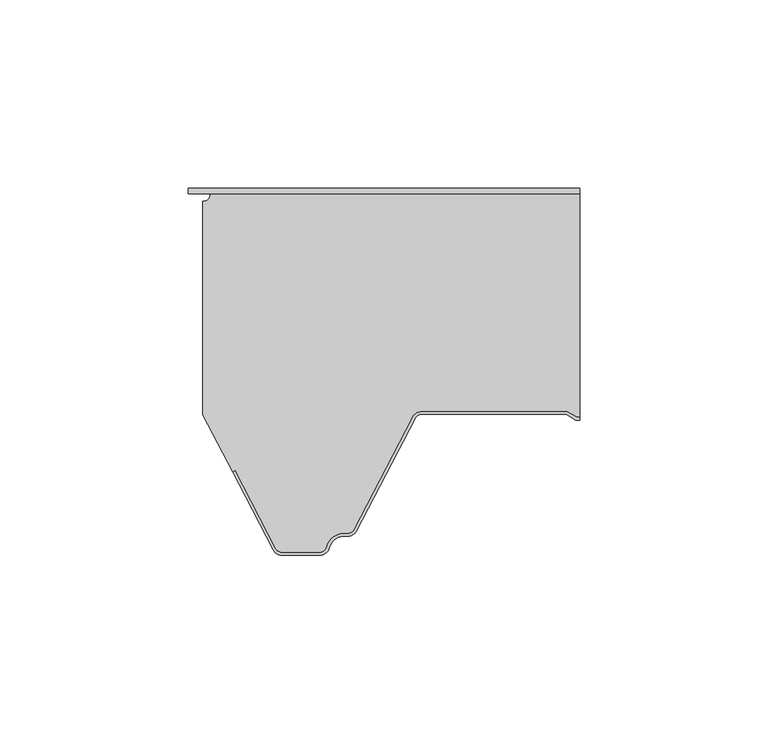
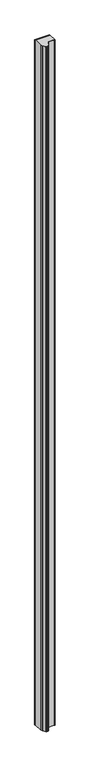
"""IFC4 building model written with IfcOpenShell, lengths in millimetres: plate geometry, Paneles-Sándwich-Madera_PALDR-AC_Curtain-Panel : PALDR AC 60/15."""

from ifc_helpers import new_model, si_unit, frame, origin, origin_with_axes, place, context, project, spatial, polyline, circle_curve, outline, extrude, source, transform, mapped, element, save
from ifc_brep_helpers import plane_surface, cylinder_surface, revolved_surface, advanced_brep


def plate_2aa0ecfb(model_context):
    return source(origin(), model_context, "Body", "SolidModel", [
        extrude(outline(polyline([(-53.88, -1.5), (-53.88, 0.0), (50.0, 0.0), (50.0, -1.5), (-53.88, -1.5)])), origin_with_axes(), (0.0, 0.0, 1.0), 5000.0),
        advanced_brep(
        [(-30.6207387, -95.6314818, 0.0), (-41.4414179, -74.855778, 0.0), (-42.1509492, -75.2253256, 0.0), (-50.0, -60.1551481, 0.0), (-50.0, -3.45, 0.0), (-48.05, -1.5, 0.0), (50.0, -1.5, 0.0), (50.0, -60.7, 0.0), (49.2107961, -60.7, 0.0), (46.6127185, -59.2, 0.0), (8.090871, -59.2, 0.0), (5.6075115, -60.7065836, 0.0), (-9.9783733, -90.6314825, 0.0), (-11.574819, -91.6, 0.0), (-12.6272901, -91.6, 0.0), (-17.2841077, -95.2363636, 0.0), (-19.030414, -96.5999997, 0.0), (-29.024293, -96.5999997, 0.0), (-30.6207383, -95.6314813, 5000.0), (-29.024293, -96.5999997, 5000.0), (-19.030414, -96.5999997, 5000.0), (-17.2841077, -95.2363636, 5000.0), (-12.6272901, -91.6, 5000.0), (-11.574819, -91.6, 5000.0), (-9.9783737, -90.631482, 5000.0), (5.6075107, -60.7065835, 5000.0), (8.090871, -59.2, 5000.0), (46.6127185, -59.2, 5000.0), (49.2107961, -60.7, 5000.0), (50.0, -60.7, 5000.0), (50.0, -1.5, 5000.0), (-48.05, -1.5, 5000.0), (-50.0, -3.45, 5000.0), (-50.0, -60.1551481, 5000.0), (-42.1509492, -75.2253256, 5000.0), (-41.4414179, -74.855778, 5000.0)],
        [
            (0, 1),
            (1, 2),
            (2, 3),
            (3, 4),
            (4, 5, circle_curve(frame((-50.0, -1.5, 0.0), z_axis=(0.0, 0.0, 1.0), x_axis=(-1.0, 0.0, 0.0)), 1.95)),
            (5, 6),
            (6, 7),
            (7, 8),
            (8, 9),
            (9, 10),
            (10, 11, circle_curve(frame((8.090871, -62.0, 0.0), z_axis=(0.0, 0.0, 1.0), x_axis=(-1.0, 0.0, 0.0)), 2.8)),
            (11, 12),
            (12, 13, circle_curve(frame((-11.574819, -89.8, 0.0), z_axis=(0.0, 0.0, -1.0), x_axis=(-1.0, 0.0, 0.0)), 1.8)),
            (13, 14),
            (14, 15, circle_curve(frame((-12.6272901, -96.4, 0.0), z_axis=(0.0, 0.0, 1.0), x_axis=(-1.0, 0.0, 0.0)), 4.8)),
            (15, 16, circle_curve(frame((-19.030414, -94.8, 0.0), z_axis=(0.0, 0.0, -1.0), x_axis=(-1.0, 0.0, 0.0)), 1.7999997)),
            (16, 17),
            (17, 0, circle_curve(frame((-29.024293, -94.8, 0.0), z_axis=(0.0, 0.0, -1.0), x_axis=(-1.0, 0.0, 0.0)), 1.7999997)),
            (18, 19, circle_curve(frame((-29.024293, -94.8, 5000.0), z_axis=(0.0, 0.0, 1.0), x_axis=(-1.0, 0.0, 0.0)), 1.7999997)),
            (19, 20),
            (20, 21, circle_curve(frame((-19.030414, -94.8, 5000.0), z_axis=(0.0, 0.0, 1.0), x_axis=(-1.0, 0.0, 0.0)), 1.7999997)),
            (21, 22, circle_curve(frame((-12.6272901, -96.4, 5000.0), z_axis=(0.0, 0.0, -1.0), x_axis=(-1.0, 0.0, 0.0)), 4.8)),
            (22, 23),
            (23, 24, circle_curve(frame((-11.574819, -89.8, 5000.0), z_axis=(0.0, 0.0, 1.0), x_axis=(-1.0, 0.0, 0.0)), 1.8)),
            (24, 25),
            (25, 26, circle_curve(frame((8.090871, -62.0, 5000.0), z_axis=(0.0, 0.0, -1.0), x_axis=(-1.0, 0.0, 0.0)), 2.8)),
            (26, 27),
            (27, 28),
            (28, 29),
            (29, 30),
            (30, 31),
            (31, 32, circle_curve(frame((-50.0, -1.5, 5000.0), z_axis=(0.0, 0.0, -1.0), x_axis=(-1.0, 0.0, 0.0)), 1.95)),
            (32, 33),
            (33, 34),
            (34, 35),
            (35, 18),
            (0, 18),
            (35, 1),
            (34, 2),
            (33, 3),
            (32, 4),
            (5, 31),
            (30, 6),
            (28, 8),
            (7, 29),
            (27, 9),
            (26, 10),
            (25, 11),
            (24, 12),
            (23, 13),
            (22, 14),
            (21, 15),
            (20, 16),
            (19, 17),
        ],
        [
            plane_surface(frame((-50.0, 0.0, 0.0), z_axis=(0.0, 0.0, -1.0), x_axis=(0.0, 1.0, 0.0))),
            plane_surface(frame((-50.0, 0.0, 5000.0), z_axis=(0.0, 0.0, 1.0), x_axis=(0.0, 1.0, 0.0))),
            plane_surface(frame((-30.6207387, -95.6314818, 0.0), z_axis=(-0.8869140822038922, -0.46193442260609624, 0.0), x_axis=(0.0, 0.0, 1.0))),
            plane_surface(frame((-41.4414179, -74.855778, 0.0), z_axis=(0.4619344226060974, -0.8869140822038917, 0.0), x_axis=(0.0, 0.0, 1.0))),
            plane_surface(frame((-42.1509492, -75.2253256, 0.0), z_axis=(-0.8869140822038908, -0.4619344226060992, 0.0), x_axis=(0.0, 0.0, 1.0))),
            plane_surface(frame((-50.0, -60.1551481, 0.0), z_axis=(-1.0, 0.0, 0.0), x_axis=(0.0, 0.0, 1.0))),
            plane_surface(frame((-48.05, -1.5, 0.0), z_axis=(0.0, 1.0, 0.0), x_axis=(0.0, 0.0, 1.0))),
            plane_surface(frame((81.5859248, -60.7, 0.0), z_axis=(0.0, -1.0, 0.0), x_axis=(0.0, 0.0, 1.0))),
            plane_surface(frame((49.2107961, -60.7, 0.0), z_axis=(-0.4999997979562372, -0.866025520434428, 0.0), x_axis=(0.0, 0.0, 1.0))),
            plane_surface(frame((46.6127185, -59.2, 0.0), z_axis=(0.0, -1.0, 0.0), x_axis=(0.0, 0.0, 1.0))),
            revolved_surface(polyline([(5.290871, -62.0, 5000.0), (5.290871, -62.0, 0.0)]), (8.090871, -62.0, 0.0), (0.0, 0.0, 1.0)),
            plane_surface(frame((5.6075107, -60.7065835, 0.0), z_axis=(0.8869140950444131, -0.4619343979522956, 0.0), x_axis=(0.0, 0.0, 1.0))),
            cylinder_surface(frame((-11.574819, -89.8, 0.0), z_axis=(0.0, 0.0, -1.0), x_axis=(-1.0, 0.0, 0.0)), 1.8),
            plane_surface(frame((-11.574819, -91.6, 0.0), z_axis=(0.0, -1.0, 0.0), x_axis=(0.0, 0.0, 1.0))),
            revolved_surface(polyline([(-17.4272901, -96.4, 5000.0), (-17.4272901, -96.4, 0.0)]), (-12.6272901, -96.4, 0.0), (0.0, 0.0, 1.0)),
            cylinder_surface(frame((-19.030414, -94.8, 0.0), z_axis=(0.0, 0.0, -1.0), x_axis=(-1.0, 0.0, 0.0)), 1.7999997),
            plane_surface(frame((-19.030414, -96.5999997, 0.0), z_axis=(0.0, -1.0, 0.0), x_axis=(0.0, 0.0, 1.0))),
            cylinder_surface(frame((-29.024293, -94.8, 0.0), z_axis=(0.0, 0.0, -1.0), x_axis=(-1.0, 0.0, 0.0)), 1.7999997),
            revolved_surface(polyline([(-51.95, -1.5, 5000.0), (-51.95, -1.5, 0.0)]), (-50.0, -1.5, 0.0), (0.0, 0.0, 1.0)),
            plane_surface(frame((50.0, 0.0, 5000.0), z_axis=(1.0, 0.0, 0.0), x_axis=(0.0, 0.0, -1.0))),
        ],
        [
            (0, [[1, 2, 3, 4, 5, 6, 7, 8, 9, 10, 11, 12, 13, 14, 15, 16, 17, 18]]),
            (1, [[19, 20, 21, 22, 23, 24, 25, 26, 27, 28, 29, 30, 31, 32, 33, 34, 35, 36]]),
            (2, [[-1, 37, -36, 38]]),
            (3, [[-2, -38, -35, 39]]),
            (4, [[-3, -39, -34, 40]]),
            (5, [[-4, -40, -33, 41]]),
            (6, [[42, -31, 43, -6]]),
            (7, [[44, -8, 45, -29]]),
            (8, [[-9, -44, -28, 46]]),
            (9, [[-10, -46, -27, 47]]),
            (10, [[-11, -47, -26, 48]]),
            (11, [[-12, -48, -25, 49]]),
            (12, [[-13, -49, -24, 50]]),
            (13, [[-14, -50, -23, 51]]),
            (14, [[-15, -51, -22, 52]]),
            (15, [[-16, -52, -21, 53]]),
            (16, [[-17, -53, -20, 54]]),
            (17, [[-18, -54, -19, -37]]),
            (18, [[-5, -41, -32, -42]]),
            (19, [[-7, -43, -30, -45]]),
        ],
    ),
        advanced_brep(
        [(49.2107962, -60.7, 5000.0), (46.6127186, -59.2, 5000.0), (8.090871, -59.2, 5000.0), (5.6075116, -60.7065836, 5000.0), (-9.9783733, -90.6314825, 5000.0), (-11.574819, -91.6, 5000.0), (-12.62729, -91.6, 5000.0), (-17.2841076, -95.2363636, 5000.0), (-19.030414, -96.6, 5000.0), (-29.024293, -96.6, 5000.0), (-30.6207383, -95.631482, 5000.0), (-41.4404688, -74.8576004, 5000.0), (-42.15, -75.227148, 5000.0), (-31.33027, -96.00103, 5000.0), (-29.024293, -97.4, 5000.0), (-19.030414, -97.4, 5000.0), (-16.5079711, -95.4303031, 5000.0), (-12.62729, -92.4, 5000.0), (-11.574819, -92.4, 5000.0), (-9.2688424, -91.0010295, 5000.0), (6.317042, -61.076131, 5000.0), (8.090871, -60.0, 5000.0), (46.3983593, -60.0, 5000.0), (48.9964369, -61.5, 5000.0), (50.0, -61.5, 5000.0), (50.0, -60.7, 5000.0), (48.9964369, -61.5, 0.0), (46.3983593, -60.0, 0.0), (8.090871, -60.0, 0.0), (6.3170428, -61.0761312, 0.0), (-9.268842, -91.00103, 0.0), (-11.574819, -92.4, 0.0), (-12.62729, -92.4, 0.0), (-16.5079713, -95.430303, 0.0), (-19.030414, -97.4, 0.0), (-29.024293, -97.4, 0.0), (-31.3302696, -96.0010295, 0.0), (-42.15, -75.227148, 0.0), (-41.4404688, -74.8576004, 0.0), (-30.6207387, -95.6314825, 0.0), (-29.024293, -96.6, 0.0), (-19.030414, -96.6, 0.0), (-17.2841074, -95.2363637, 0.0), (-12.62729, -91.6, 0.0), (-11.574819, -91.6, 0.0), (-9.9783737, -90.631482, 0.0), (5.6075107, -60.7065835, 0.0), (8.090871, -59.2, 0.0), (46.6127186, -59.2, 0.0), (49.2107962, -60.7, 0.0), (50.0, -60.7, 0.0), (50.0, -61.5, 0.0)],
        [
            (0, 1),
            (1, 2),
            (2, 3, circle_curve(frame((8.090871, -62.0, 5000.0), z_axis=(0.0, 0.0, 1.0), x_axis=(1.0, 0.0, 0.0)), 2.8)),
            (3, 4),
            (4, 5, circle_curve(frame((-11.574819, -89.8, 5000.0), z_axis=(0.0, 0.0, -1.0), x_axis=(1.0, 0.0, 0.0)), 1.8)),
            (5, 6),
            (6, 7, circle_curve(frame((-12.62729, -96.4, 5000.0), z_axis=(0.0, 0.0, 1.0), x_axis=(1.0, 0.0, 0.0)), 4.8)),
            (7, 8, circle_curve(frame((-19.030414, -94.8, 5000.0), z_axis=(0.0, 0.0, -1.0), x_axis=(1.0, 0.0, 0.0)), 1.8)),
            (8, 9),
            (9, 10, circle_curve(frame((-29.024293, -94.8, 5000.0), z_axis=(0.0, 0.0, -1.0), x_axis=(1.0, 0.0, 0.0)), 1.8)),
            (10, 11),
            (11, 12),
            (12, 13),
            (13, 14, circle_curve(frame((-29.024293, -94.8, 5000.0), z_axis=(0.0, 0.0, 1.0), x_axis=(1.0, 0.0, 0.0)), 2.6)),
            (14, 15),
            (15, 16, circle_curve(frame((-19.030414, -94.8, 5000.0), z_axis=(0.0, 0.0, 1.0), x_axis=(1.0, 0.0, 0.0)), 2.6)),
            (16, 17, circle_curve(frame((-12.62729, -96.4, 5000.0), z_axis=(0.0, 0.0, -1.0), x_axis=(1.0, 0.0, 0.0)), 4.0)),
            (17, 18),
            (18, 19, circle_curve(frame((-11.574819, -89.8, 5000.0), z_axis=(0.0, 0.0, 1.0), x_axis=(1.0, 0.0, 0.0)), 2.6)),
            (19, 20),
            (20, 21, circle_curve(frame((8.090871, -62.0, 5000.0), z_axis=(0.0, 0.0, -1.0), x_axis=(1.0, 0.0, 0.0)), 2.0)),
            (21, 22),
            (22, 23),
            (23, 24),
            (24, 25),
            (25, 0),
            (26, 27),
            (27, 28),
            (28, 29, circle_curve(frame((8.090871, -62.0, 0.0), z_axis=(0.0, 0.0, 1.0), x_axis=(1.0, 0.0, 0.0)), 2.0)),
            (29, 30),
            (30, 31, circle_curve(frame((-11.574819, -89.8, 0.0), z_axis=(0.0, 0.0, -1.0), x_axis=(1.0, 0.0, 0.0)), 2.6)),
            (31, 32),
            (32, 33, circle_curve(frame((-12.62729, -96.4, 0.0), z_axis=(0.0, 0.0, 1.0), x_axis=(1.0, 0.0, 0.0)), 4.0)),
            (33, 34, circle_curve(frame((-19.030414, -94.8, 0.0), z_axis=(0.0, 0.0, -1.0), x_axis=(1.0, 0.0, 0.0)), 2.6)),
            (34, 35),
            (35, 36, circle_curve(frame((-29.024293, -94.8, 0.0), z_axis=(0.0, 0.0, -1.0), x_axis=(1.0, 0.0, 0.0)), 2.6)),
            (36, 37),
            (37, 38),
            (38, 39),
            (39, 40, circle_curve(frame((-29.024293, -94.8, 0.0), z_axis=(0.0, 0.0, 1.0), x_axis=(1.0, 0.0, 0.0)), 1.8)),
            (40, 41),
            (41, 42, circle_curve(frame((-19.030414, -94.8, 0.0), z_axis=(0.0, 0.0, 1.0), x_axis=(1.0, 0.0, 0.0)), 1.8)),
            (42, 43, circle_curve(frame((-12.62729, -96.4, 0.0), z_axis=(0.0, 0.0, -1.0), x_axis=(1.0, 0.0, 0.0)), 4.8)),
            (43, 44),
            (44, 45, circle_curve(frame((-11.574819, -89.8, 0.0), z_axis=(0.0, 0.0, 1.0), x_axis=(1.0, 0.0, 0.0)), 1.8)),
            (45, 46),
            (46, 47, circle_curve(frame((8.090871, -62.0, 0.0), z_axis=(0.0, 0.0, -1.0), x_axis=(1.0, 0.0, 0.0)), 2.8)),
            (47, 48),
            (48, 49),
            (49, 50),
            (50, 51),
            (51, 26),
            (49, 0),
            (25, 50),
            (48, 1),
            (47, 2),
            (46, 3),
            (45, 4),
            (44, 5),
            (43, 6),
            (42, 7),
            (41, 8),
            (40, 9),
            (39, 10),
            (38, 11),
            (37, 12),
            (36, 13),
            (35, 14),
            (34, 15),
            (33, 16),
            (32, 17),
            (31, 18),
            (30, 19),
            (29, 20),
            (28, 21),
            (27, 22),
            (26, 23),
            (51, 24),
        ],
        [
            plane_surface(frame((-50.0, -60.0, 5000.0), z_axis=(0.0, 0.0, 1.0), x_axis=(0.0, 1.0, 0.0))),
            plane_surface(frame((-50.0, -60.0, 0.0), z_axis=(0.0, 0.0, -1.0), x_axis=(0.0, 1.0, 0.0))),
            plane_surface(frame((81.5859248, -60.7, 5000.0), z_axis=(0.0, 1.0, 0.0), x_axis=(0.0, 0.0, -1.0))),
            plane_surface(frame((49.2107962, -60.7, 5000.0), z_axis=(0.4999997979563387, 0.8660255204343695, 0.0), x_axis=(0.0, 0.0, -1.0))),
            plane_surface(frame((46.6127186, -59.2, 5000.0), z_axis=(0.0, 1.0, 0.0), x_axis=(0.0, 0.0, -1.0))),
            cylinder_surface(frame((8.090871, -62.0, 5000.0), z_axis=(0.0, 0.0, 1.0), x_axis=(1.0, 0.0, 0.0)), 2.8),
            plane_surface(frame((5.6075107, -60.7065835, 5000.0), z_axis=(-0.8869140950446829, 0.4619343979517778, 0.0), x_axis=(0.0, 0.0, -1.0))),
            revolved_surface(polyline([(-9.774818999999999, -89.8, 0.0), (-9.774818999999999, -89.8, 5000.0)]), (-11.574819, -89.8, 5000.0), (0.0, 0.0, -1.0)),
            plane_surface(frame((-11.574819, -91.6, 5000.0), z_axis=(0.0, 1.0, 0.0), x_axis=(0.0, 0.0, -1.0))),
            cylinder_surface(frame((-12.62729, -96.4, 5000.0), z_axis=(0.0, 0.0, 1.0), x_axis=(1.0, 0.0, 0.0)), 4.8),
            revolved_surface(polyline([(-17.230414, -94.8, 0.0), (-17.230414, -94.8, 5000.0)]), (-19.030414, -94.8, 5000.0), (0.0, 0.0, -1.0)),
            plane_surface(frame((-19.030414, -96.6, 5000.0), z_axis=(0.0, 1.0, 0.0), x_axis=(0.0, 0.0, -1.0))),
            revolved_surface(polyline([(-27.224293, -94.8, 0.0), (-27.224293, -94.8, 5000.0)]), (-29.024293, -94.8, 5000.0), (0.0, 0.0, -1.0)),
            plane_surface(frame((-30.6207387, -95.6314825, 5000.0), z_axis=(0.8869140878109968, 0.46193441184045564, 0.0), x_axis=(0.0, 0.0, -1.0))),
            plane_surface(frame((-41.4404688, -74.8576004, 5000.0), z_axis=(-0.46193450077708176, 0.8869140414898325, 0.0), x_axis=(0.0, 0.0, -1.0))),
            plane_surface(frame((-42.15, -75.227148, 5000.0), z_axis=(-0.8869140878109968, -0.46193441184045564, 0.0), x_axis=(0.0, 0.0, -1.0))),
            cylinder_surface(frame((-29.024293, -94.8, 5000.0), z_axis=(0.0, 0.0, 1.0), x_axis=(1.0, 0.0, 0.0)), 2.6),
            plane_surface(frame((-29.024293, -97.4, 5000.0), z_axis=(0.0, -1.0, 0.0), x_axis=(0.0, 0.0, -1.0))),
            cylinder_surface(frame((-19.030414, -94.8, 5000.0), z_axis=(0.0, 0.0, 1.0), x_axis=(1.0, 0.0, 0.0)), 2.6),
            revolved_surface(polyline([(-8.62729, -96.4, 0.0), (-8.62729, -96.4, 5000.0)]), (-12.62729, -96.4, 5000.0), (0.0, 0.0, -1.0)),
            plane_surface(frame((-12.62729, -92.4, 5000.0), z_axis=(0.0, -1.0, 0.0), x_axis=(0.0, 0.0, -1.0))),
            cylinder_surface(frame((-11.574819, -89.8, 5000.0), z_axis=(0.0, 0.0, 1.0), x_axis=(1.0, 0.0, 0.0)), 2.6),
            plane_surface(frame((-9.268842, -91.00103, 5000.0), z_axis=(0.8869140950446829, -0.4619343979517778, 0.0), x_axis=(0.0, 0.0, -1.0))),
            revolved_surface(polyline([(10.090871, -62.0, 0.0), (10.090871, -62.0, 5000.0)]), (8.090871, -62.0, 5000.0), (0.0, 0.0, -1.0)),
            plane_surface(frame((8.090871, -60.0, 5000.0), z_axis=(0.0, -1.0, 0.0), x_axis=(0.0, 0.0, -1.0))),
            plane_surface(frame((46.3983593, -60.0, 5000.0), z_axis=(-0.4999997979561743, -0.8660255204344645, 0.0), x_axis=(0.0, 0.0, -1.0))),
            plane_surface(frame((48.9964369, -61.5, 5000.0), z_axis=(0.0, -1.0, 0.0), x_axis=(0.0, 0.0, -1.0))),
            plane_surface(frame((50.0, 0.0, 5000.0), z_axis=(1.0, 0.0, 0.0), x_axis=(0.0, 0.0, -1.0))),
        ],
        [
            (0, [[1, 2, 3, 4, 5, 6, 7, 8, 9, 10, 11, 12, 13, 14, 15, 16, 17, 18, 19, 20, 21, 22, 23, 24, 25, 26]]),
            (1, [[27, 28, 29, 30, 31, 32, 33, 34, 35, 36, 37, 38, 39, 40, 41, 42, 43, 44, 45, 46, 47, 48, 49, 50, 51, 52]]),
            (2, [[53, -26, 54, -50]]),
            (3, [[-1, -53, -49, 55]]),
            (4, [[-2, -55, -48, 56]]),
            (5, [[-3, -56, -47, 57]]),
            (6, [[-4, -57, -46, 58]]),
            (7, [[-5, -58, -45, 59]]),
            (8, [[-6, -59, -44, 60]]),
            (9, [[-7, -60, -43, 61]]),
            (10, [[-8, -61, -42, 62]]),
            (11, [[-9, -62, -41, 63]]),
            (12, [[-10, -63, -40, 64]]),
            (13, [[-11, -64, -39, 65]]),
            (14, [[-12, -65, -38, 66]]),
            (15, [[-13, -66, -37, 67]]),
            (16, [[-14, -67, -36, 68]]),
            (17, [[-15, -68, -35, 69]]),
            (18, [[-16, -69, -34, 70]]),
            (19, [[-17, -70, -33, 71]]),
            (20, [[-18, -71, -32, 72]]),
            (21, [[-19, -72, -31, 73]]),
            (22, [[-20, -73, -30, 74]]),
            (23, [[-21, -74, -29, 75]]),
            (24, [[-22, -75, -28, 76]]),
            (25, [[-23, -76, -27, 77]]),
            (26, [[-77, -52, 78, -24]]),
            (27, [[-25, -78, -51, -54]]),
        ],
    ),
    ])


if __name__ == "__main__":
    model = new_model("IFC4")
    model_context = context("Model", 3, world=origin())
    ifc_project = project(units=[si_unit("LENGTHUNIT", "METRE", prefix="MILLI")], contexts=[model_context])
    site = spatial("IfcSite", under=ifc_project)
    building = spatial("IfcBuilding", under=site)
    placement = place(None, origin())
    plate_shape = plate_2aa0ecfb(model_context)
    element("IfcPlate", 1, ObjectType="Paneles-Sándwich-Madera_PALDR-AC_Curtain-Panel : PALDR AC 60/15", at=placement, inside=building, context=model_context, shape_type="MappedRepresentation", body=[
        mapped(plate_shape, transform((0.0, 0.0, 0.0), x_axis=(1.0, 0.0, 0.0), y_axis=(0.0, 1.0, 0.0), z_axis=(0.0, 0.0, 1.0))),
    ])
    save(model, "model.ifc")
